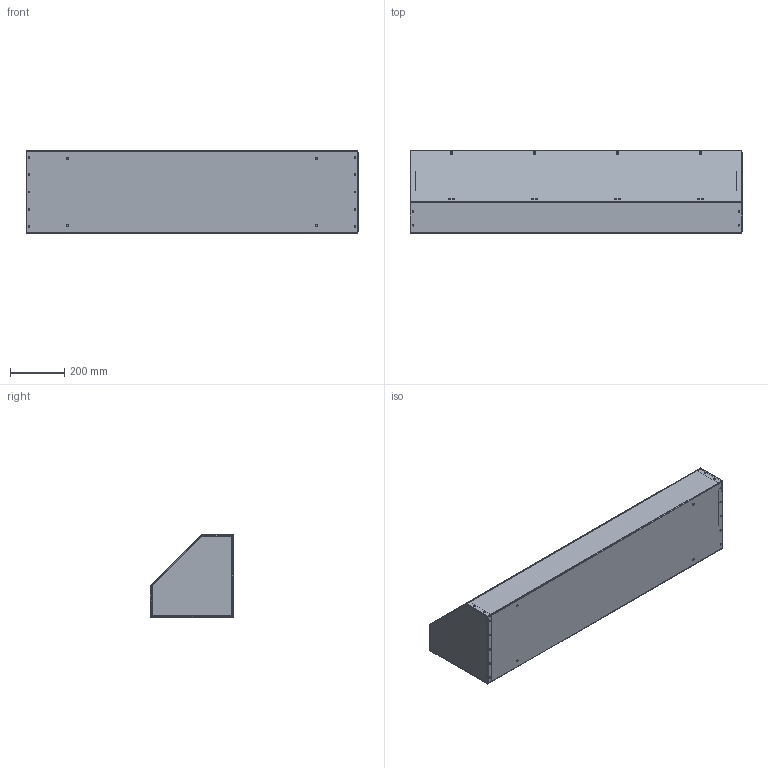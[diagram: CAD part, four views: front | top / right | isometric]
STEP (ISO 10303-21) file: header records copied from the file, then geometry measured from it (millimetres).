
FILE_DESCRIPTION (( 'STEP AP203' ), '1' );
FILE_NAME ('at121248.STEP', '2017-10-03T15:37:38', ( '' ), ( '' ), 'SwSTEP 2.0', 'SolidWorks 2014', '' );
FILE_SCHEMA (( 'CONFIG_CONTROL_DESIGN' ));
Length unit declared in the file: inch
Products named in the file (7): 87780048; at121248; 89159118; 89159124; 16111002_INSTALLED .144 THICKNESS; 89159162; 89159141
Assembly tree (34 placements, depth 3):
  at121248
    89159162
      89159118
      89159124  x2
      16111002_INSTALLED .144 THICKNESS  x28
    89159141
    87780048
Bounding box: 1219.2 x 306.63 x 306.63 mm (x, y, z)
Volume: 2850512.1 mm3; surface area: 3148348.9 mm2
Topology: 33 solids, 33 shells, 1150 faces, 2664 edges, 1604 vertices
Faces by surface type: cylinder 460, plane 378, cone 168, bspline 128, torus 16
Entity records: 17275 total; most frequent: CARTESIAN_POINT 3136, DIRECTION 2702, ORIENTED_EDGE 2578, EDGE_CURVE 1289, AXIS2_PLACEMENT_3D 941, VECTOR 820, LINE 820, VERTEX_POINT 819
